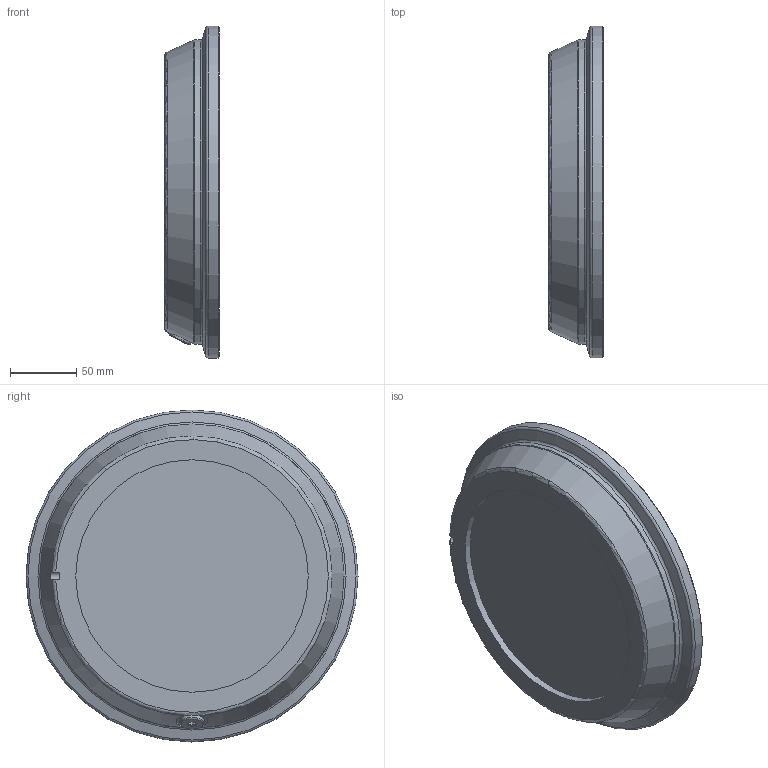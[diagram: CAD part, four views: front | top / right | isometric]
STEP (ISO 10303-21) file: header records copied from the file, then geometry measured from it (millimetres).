
FILE_DESCRIPTION (( 'STEP AP214' ), '1' );
FILE_NAME ('IRB7710_All-285_OC_00_LINK06_CAD.step', '2026-01-28T10:15:21', ( '' ), ( '' ), 'SwSTEP 2.0', 'SolidWorks 2024', '' );
FILE_SCHEMA (( 'AUTOMOTIVE_DESIGN' ));
Length unit declared in the file: millimetre
Products named in the file (1): IRB7710_All-285_OC_00_LINK06_CAD
Bounding box: 41.2 x 250 x 250 mm (x, y, z)
Volume: 1184493.4 mm3; surface area: 164877.1 mm2
Topology: 1 solids, 1 shells, 159 faces, 380 edges, 250 vertices
Faces by surface type: cylinder 68, plane 45, cone 38, torus 7, bspline 1
Full cylindrical faces by diameter (mm): 4.8 x1, 12 x1, 14 x12, 16.27 x23, 17.9 x1, 18 x1, 24 x1, 175 x1, 229 x1, 250 x1
Entity records: 6127 total; most frequent: CARTESIAN_POINT 1138, DIRECTION 731, ORIENTED_EDGE 512, AXIS2_PLACEMENT_3D 329, EDGE_LOOP 266, EDGE_CURVE 256, VERTEX_POINT 206, FACE_OUTER_BOUND 205
